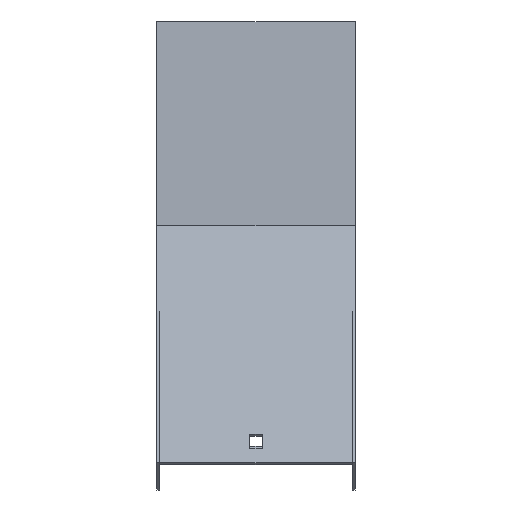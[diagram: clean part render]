
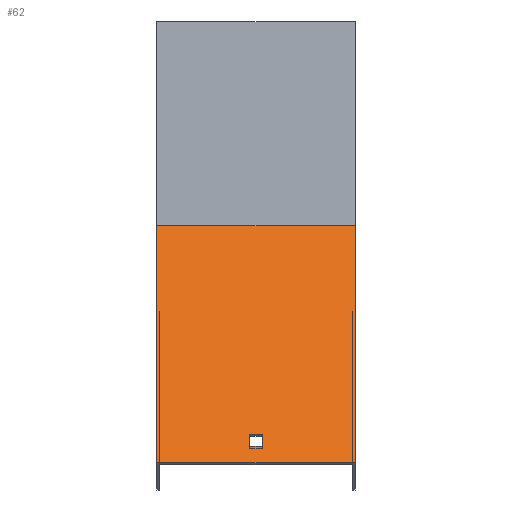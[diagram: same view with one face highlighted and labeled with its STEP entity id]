
A CAD part, top view. The second image highlights one B-rep face of the part: STEP entity #62.
In plain terms, the highlighted planar face has unit normal (0, 0.707, 0.707).
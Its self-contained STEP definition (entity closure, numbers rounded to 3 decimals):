
#14 = LINE ( 'NONE', #329, #727 ) ;
#28 = DIRECTION ( 'NONE',  ( -1., 0., 0. ) ) ;
#32 = CARTESIAN_POINT ( 'NONE',  ( 3.25, -194.159, 538.025 ) ) ;
#57 = EDGE_CURVE ( 'NONE', #150, #454, #14, .T. ) ;
#61 = DIRECTION ( 'NONE',  ( 0., -0.707, 0.707 ) ) ;
#62 = ADVANCED_FACE ( 'NONE', ( #335, #657 ), #731, .F. ) ;
#89 = AXIS2_PLACEMENT_3D ( 'NONE', #602, #403, #675 ) ;
#98 = CARTESIAN_POINT ( 'NONE',  ( 3.25, -200.523, 544.389 ) ) ;
#150 = VERTEX_POINT ( 'NONE', #418 ) ;
#157 = CARTESIAN_POINT ( 'NONE',  ( -3.25, -200.523, 544.389 ) ) ;
#177 = ORIENTED_EDGE ( 'NONE', *, *, #835, .T. ) ;
#191 = VERTEX_POINT ( 'NONE', #692 ) ;
#197 = VECTOR ( 'NONE', #812, 1000. ) ;
#204 = ORIENTED_EDGE ( 'NONE', *, *, #211, .T. ) ;
#209 = VERTEX_POINT ( 'NONE', #32 ) ;
#211 = EDGE_CURVE ( 'NONE', #240, #733, #614, .T. ) ;
#213 = EDGE_LOOP ( 'NONE', ( #711, #177, #728, #204 ) ) ;
#220 = LINE ( 'NONE', #480, #246 ) ;
#231 = CARTESIAN_POINT ( 'NONE',  ( -51.5, -85.987, 429.853 ) ) ;
#233 = VERTEX_POINT ( 'NONE', #98 ) ;
#240 = VERTEX_POINT ( 'NONE', #157 ) ;
#246 = VECTOR ( 'NONE', #747, 1000. ) ;
#272 = VECTOR ( 'NONE', #28, 1000. ) ;
#281 = LINE ( 'NONE', #735, #526 ) ;
#289 = CARTESIAN_POINT ( 'NONE',  ( -51.5, -209.008, 552.874 ) ) ;
#329 = CARTESIAN_POINT ( 'NONE',  ( 51.5, -209.008, 552.874 ) ) ;
#335 = FACE_BOUND ( 'NONE', #213, .T. ) ;
#336 = ORIENTED_EDGE ( 'NONE', *, *, #57, .F. ) ;
#344 = LINE ( 'NONE', #409, #272 ) ;
#359 = LINE ( 'NONE', #438, #517 ) ;
#368 = VECTOR ( 'NONE', #61, 1000. ) ;
#386 = EDGE_CURVE ( 'NONE', #733, #209, #721, .T. ) ;
#388 = DIRECTION ( 'NONE',  ( -1., 0., 0. ) ) ;
#403 = DIRECTION ( 'NONE',  ( 0., -0.707, -0.707 ) ) ;
#409 = CARTESIAN_POINT ( 'NONE',  ( 51.5, -85.987, 429.853 ) ) ;
#416 = EDGE_CURVE ( 'NONE', #191, #541, #344, .T. ) ;
#418 = CARTESIAN_POINT ( 'NONE',  ( 51.5, -209.008, 552.874 ) ) ;
#425 = EDGE_LOOP ( 'NONE', ( #521, #336, #749, #535 ) ) ;
#438 = CARTESIAN_POINT ( 'NONE',  ( 3.25, -88.8, 432.666 ) ) ;
#454 = VERTEX_POINT ( 'NONE', #289 ) ;
#456 = CARTESIAN_POINT ( 'NONE',  ( -3.25, -194.159, 538.025 ) ) ;
#480 = CARTESIAN_POINT ( 'NONE',  ( 51.5, -200.523, 544.389 ) ) ;
#505 = DIRECTION ( 'NONE',  ( 0., -0.707, 0.707 ) ) ;
#507 = EDGE_CURVE ( 'NONE', #541, #454, #281, .T. ) ;
#515 = EDGE_CURVE ( 'NONE', #233, #240, #220, .T. ) ;
#517 = VECTOR ( 'NONE', #505, 1000. ) ;
#521 = ORIENTED_EDGE ( 'NONE', *, *, #507, .T. ) ;
#526 = VECTOR ( 'NONE', #811, 1000. ) ;
#535 = ORIENTED_EDGE ( 'NONE', *, *, #416, .T. ) ;
#541 = VERTEX_POINT ( 'NONE', #231 ) ;
#551 = DIRECTION ( 'NONE',  ( 1., 0., 0. ) ) ;
#553 = CARTESIAN_POINT ( 'NONE',  ( -3.25, -88.8, 432.666 ) ) ;
#590 = LINE ( 'NONE', #658, #368 ) ;
#602 = CARTESIAN_POINT ( 'NONE',  ( 51.5, -88.8, 432.666 ) ) ;
#614 = LINE ( 'NONE', #553, #197 ) ;
#620 = CARTESIAN_POINT ( 'NONE',  ( 51.5, -194.159, 538.025 ) ) ;
#657 = FACE_OUTER_BOUND ( 'NONE', #425, .T. ) ;
#658 = CARTESIAN_POINT ( 'NONE',  ( 51.5, -88.8, 432.666 ) ) ;
#675 = DIRECTION ( 'NONE',  ( 0., 0.707, -0.707 ) ) ;
#692 = CARTESIAN_POINT ( 'NONE',  ( 51.5, -85.987, 429.853 ) ) ;
#704 = VECTOR ( 'NONE', #551, 1000. ) ;
#711 = ORIENTED_EDGE ( 'NONE', *, *, #386, .T. ) ;
#721 = LINE ( 'NONE', #620, #704 ) ;
#727 = VECTOR ( 'NONE', #388, 1000. ) ;
#728 = ORIENTED_EDGE ( 'NONE', *, *, #515, .T. ) ;
#731 = PLANE ( 'NONE',  #89 ) ;
#733 = VERTEX_POINT ( 'NONE', #456 ) ;
#735 = CARTESIAN_POINT ( 'NONE',  ( -51.5, -88.8, 432.666 ) ) ;
#736 = EDGE_CURVE ( 'NONE', #191, #150, #590, .T. ) ;
#747 = DIRECTION ( 'NONE',  ( -1., 0., 0. ) ) ;
#749 = ORIENTED_EDGE ( 'NONE', *, *, #736, .F. ) ;
#811 = DIRECTION ( 'NONE',  ( 0., -0.707, 0.707 ) ) ;
#812 = DIRECTION ( 'NONE',  ( 0., 0.707, -0.707 ) ) ;
#835 = EDGE_CURVE ( 'NONE', #209, #233, #359, .T. ) ;
